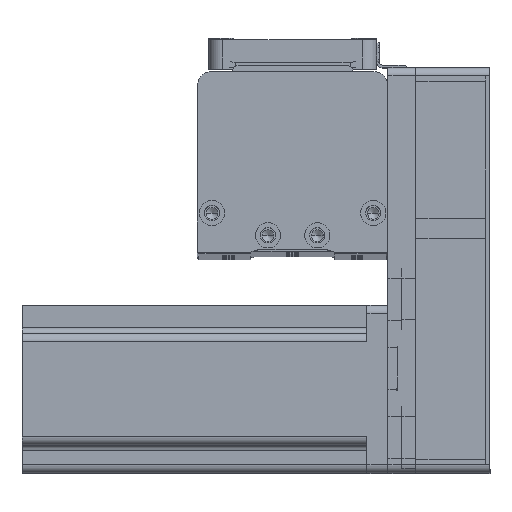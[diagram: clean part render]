
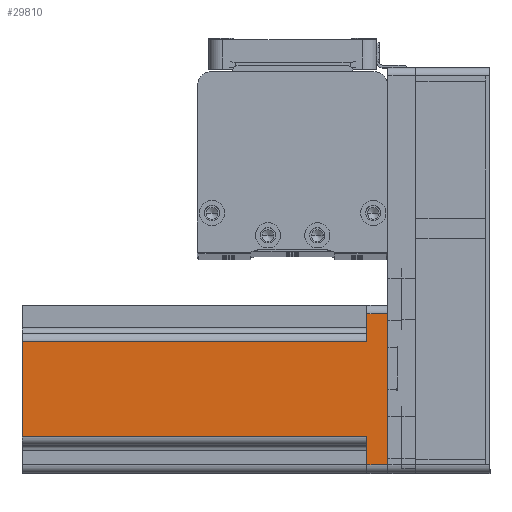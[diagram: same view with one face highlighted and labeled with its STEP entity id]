
A CAD part, top view. The second image highlights one B-rep face of the part: STEP entity #29810.
In plain terms, the highlighted planar face has unit normal (0, 0, 1) as drawn and (0, 1, 0) by its records, which use the part's own axes.
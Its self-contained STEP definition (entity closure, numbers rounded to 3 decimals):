
#710 = CARTESIAN_POINT ( 'NONE',  ( 20., 30., 7.5 ) ) ;
#1552 = CARTESIAN_POINT ( 'NONE',  ( 27., 30., 0. ) ) ;
#2191 = CARTESIAN_POINT ( 'NONE',  ( -20., 30., 7.5 ) ) ;
#2689 = ORIENTED_EDGE ( 'NONE', *, *, #6151, .T. ) ;
#3222 = ORIENTED_EDGE ( 'NONE', *, *, #38596, .F. ) ;
#3632 = CARTESIAN_POINT ( 'NONE',  ( -27., 30., 7.5 ) ) ;
#3660 = EDGE_CURVE ( 'NONE', #44994, #35765, #42532, .T. ) ;
#4384 = VECTOR ( 'NONE', #34814, 1000. ) ;
#4971 = CARTESIAN_POINT ( 'NONE',  ( -27., 30., 0. ) ) ;
#6151 = EDGE_CURVE ( 'NONE', #7584, #38080, #37908, .T. ) ;
#6229 = VECTOR ( 'NONE', #26252, 1000. ) ;
#6987 = VECTOR ( 'NONE', #46885, 1000. ) ;
#7430 = ORIENTED_EDGE ( 'NONE', *, *, #43187, .T. ) ;
#7584 = VERTEX_POINT ( 'NONE', #8342 ) ;
#8342 = CARTESIAN_POINT ( 'NONE',  ( -17., 30., 7.5 ) ) ;
#13914 = DIRECTION ( 'NONE',  ( 0., 0., 1. ) ) ;
#13981 = ORIENTED_EDGE ( 'NONE', *, *, #3660, .T. ) ;
#15118 = CARTESIAN_POINT ( 'NONE',  ( 30., 30., 130.7 ) ) ;
#15594 = EDGE_CURVE ( 'NONE', #42518, #44994, #39555, .T. ) ;
#16237 = DIRECTION ( 'NONE',  ( -1., 0., 0. ) ) ;
#16643 = VERTEX_POINT ( 'NONE', #46492 ) ;
#17853 = DIRECTION ( 'NONE',  ( 0., 0., 1. ) ) ;
#18007 = DIRECTION ( 'NONE',  ( 1., 0., 0. ) ) ;
#18096 = CARTESIAN_POINT ( 'NONE',  ( -27., 30., 130.7 ) ) ;
#18236 = VECTOR ( 'NONE', #13914, 1000. ) ;
#18381 = AXIS2_PLACEMENT_3D ( 'NONE', #15118, #42499, #19030 ) ;
#19030 = DIRECTION ( 'NONE',  ( 1., 0., 0. ) ) ;
#20885 = EDGE_CURVE ( 'NONE', #26409, #16643, #37444, .T. ) ;
#22285 = CARTESIAN_POINT ( 'NONE',  ( 17., 30., 130.7 ) ) ;
#22717 = ORIENTED_EDGE ( 'NONE', *, *, #41706, .F. ) ;
#22799 = PLANE ( 'NONE',  #18381 ) ;
#23050 = ORIENTED_EDGE ( 'NONE', *, *, #44828, .T. ) ;
#25156 = LINE ( 'NONE', #42656, #4384 ) ;
#25571 = VECTOR ( 'NONE', #18007, 1000. ) ;
#26252 = DIRECTION ( 'NONE',  ( 0., 0., -1. ) ) ;
#26409 = VERTEX_POINT ( 'NONE', #50092 ) ;
#27699 = ORIENTED_EDGE ( 'NONE', *, *, #20885, .T. ) ;
#29810 = ADVANCED_FACE ( 'NONE', ( #35454 ), #22799, .F. ) ;
#30916 = CARTESIAN_POINT ( 'NONE',  ( 27., 30., 7.5 ) ) ;
#31053 = ORIENTED_EDGE ( 'NONE', *, *, #15594, .T. ) ;
#34814 = DIRECTION ( 'NONE',  ( -1., 0., 0. ) ) ;
#35454 = FACE_OUTER_BOUND ( 'NONE', #42040, .T. ) ;
#35765 = VERTEX_POINT ( 'NONE', #3632 ) ;
#36385 = VERTEX_POINT ( 'NONE', #30916 ) ;
#36983 = LINE ( 'NONE', #39213, #6987 ) ;
#37444 = LINE ( 'NONE', #22285, #6229 ) ;
#37908 = LINE ( 'NONE', #49009, #18236 ) ;
#37955 = CARTESIAN_POINT ( 'NONE',  ( -17., 30., 130.7 ) ) ;
#38080 = VERTEX_POINT ( 'NONE', #37955 ) ;
#38319 = VECTOR ( 'NONE', #49131, 1000. ) ;
#38596 = EDGE_CURVE ( 'NONE', #26409, #38080, #25156, .T. ) ;
#39213 = CARTESIAN_POINT ( 'NONE',  ( 27., 30., 130.7 ) ) ;
#39555 = LINE ( 'NONE', #45223, #38319 ) ;
#41307 = VECTOR ( 'NONE', #17853, 1000. ) ;
#41706 = EDGE_CURVE ( 'NONE', #36385, #16643, #46639, .T. ) ;
#42040 = EDGE_LOOP ( 'NONE', ( #7430, #2689, #3222, #27699, #22717, #23050, #31053, #13981 ) ) ;
#42499 = DIRECTION ( 'NONE',  ( 0., -1., 0. ) ) ;
#42518 = VERTEX_POINT ( 'NONE', #1552 ) ;
#42532 = LINE ( 'NONE', #18096, #41307 ) ;
#42656 = CARTESIAN_POINT ( 'NONE',  ( 30., 30., 130.7 ) ) ;
#43187 = EDGE_CURVE ( 'NONE', #35765, #7584, #50076, .T. ) ;
#44828 = EDGE_CURVE ( 'NONE', #36385, #42518, #36983, .T. ) ;
#44994 = VERTEX_POINT ( 'NONE', #4971 ) ;
#45223 = CARTESIAN_POINT ( 'NONE',  ( 30., 30., 0. ) ) ;
#45381 = VECTOR ( 'NONE', #16237, 1000. ) ;
#46492 = CARTESIAN_POINT ( 'NONE',  ( 17., 30., 7.5 ) ) ;
#46639 = LINE ( 'NONE', #710, #45381 ) ;
#46885 = DIRECTION ( 'NONE',  ( 0., 0., -1. ) ) ;
#49009 = CARTESIAN_POINT ( 'NONE',  ( -17., 30., 130.7 ) ) ;
#49131 = DIRECTION ( 'NONE',  ( -1., 0., 0. ) ) ;
#50076 = LINE ( 'NONE', #2191, #25571 ) ;
#50092 = CARTESIAN_POINT ( 'NONE',  ( 17., 30., 130.7 ) ) ;
